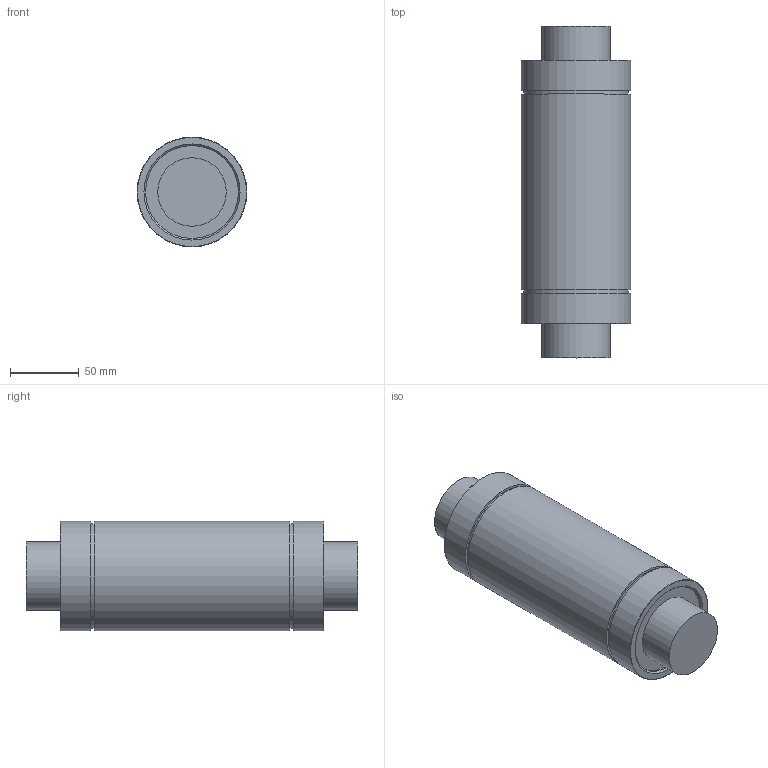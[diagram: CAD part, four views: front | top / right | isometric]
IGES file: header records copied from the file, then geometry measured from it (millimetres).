
Global section: file name: No Iges File Name specified; native system: Autodesk Inventor 2012; preprocessor: AutoDesk Inventor Iges Exporter R2012; author: user2; date: 20130206.102331; units: millimetre
Bounding box: 80 x 242 x 80 mm (x, y, z)
Volume: 1052867 mm3; surface area: 69262 mm2
Topology: 1 solids, 1 shells, 23 faces, 37 edges, 24 vertices
Faces by surface type: plane 10, cylinder 7, revolution 4, torus 2
Full cylindrical faces by diameter (mm): 50 x2, 76.5 x2, 80 x3
